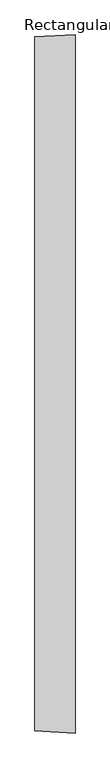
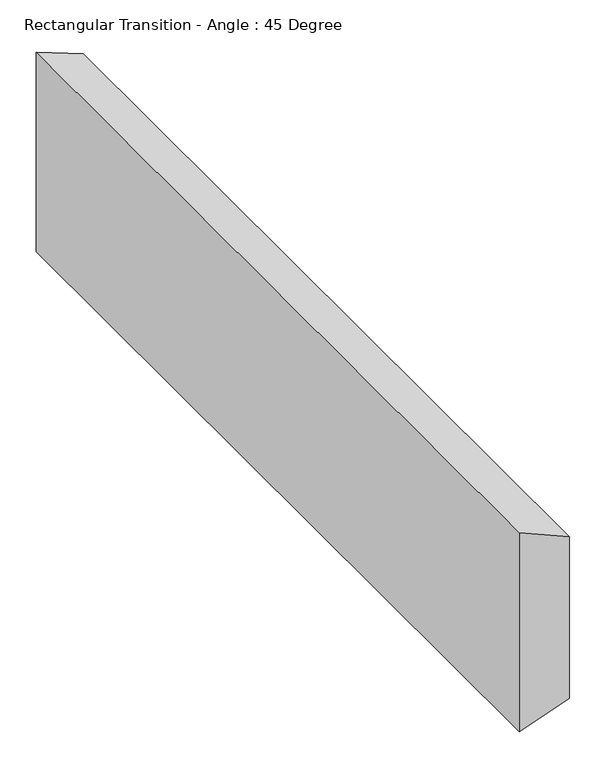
"""IFC4 building model written with IfcOpenShell, lengths in millimetres: duct fitting geometry, Rectangular Transition - Angle : 45 Degree."""

from ifc_helpers import new_model, si_unit, origin, place, context, project, spatial, faceted_brep, source, transform, mapped, element, save


def rectangular_transition_angle_45_degree_3b83c0c7(model_context):
    return source(origin(), model_context, "Body", "Brep", [
        faceted_brep([(122.642049, -1066.8, 215.9), (122.642049, -1066.8, -215.9), (122.642049, 1066.8, -215.9), (122.642049, 1066.8, 215.9), (0.0, -1060.45, 266.7), (0.0, 1060.45, 266.7), (0.0, 1060.45, -266.7), (0.0, -1060.45, -266.7)], [[[0, 1, 2, 3]], [[4, 5, 6, 7]], [[4, 7, 1, 0]], [[7, 6, 2, 1]], [[6, 5, 3, 2]], [[5, 4, 0, 3]]]),
    ])


if __name__ == "__main__":
    model = new_model("IFC4")
    model_context = context("Model", 3, world=origin())
    ifc_project = project(units=[si_unit("LENGTHUNIT", "METRE", prefix="MILLI")], contexts=[model_context])
    site = spatial("IfcSite", under=ifc_project)
    building = spatial("IfcBuilding", under=site)
    placement = place(None, origin())
    rectangular_transition_angle_45_degree_shape = rectangular_transition_angle_45_degree_3b83c0c7(model_context)
    element("IfcDuctFitting", 1, ObjectType="Rectangular Transition - Angle : 45 Degree", at=placement, inside=building, context=model_context, shape_type="MappedRepresentation", body=[
        mapped(rectangular_transition_angle_45_degree_shape, transform((0.0, 0.0, 0.0), x_axis=(1.0, 0.0, 0.0), y_axis=(0.0, 1.0, 0.0), z_axis=(0.0, 0.0, 1.0))),
    ])
    save(model, "model.ifc")
